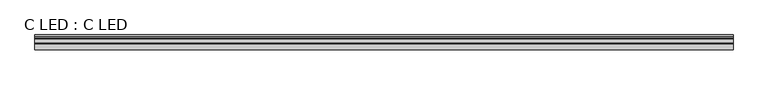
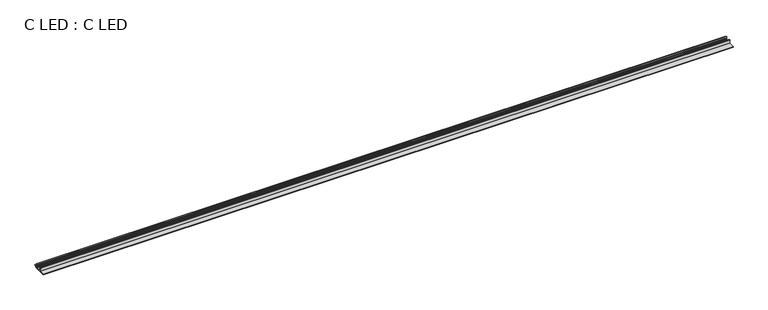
"""IFC4 building model written with IfcOpenShell, lengths in millimetres: proxy geometry, C LED : C LED."""

import ifcopenshell
import ifcopenshell.guid

model = None  # the IFC model being written
_history = None  # IfcOwnerHistory: only IFC2X3 demands one
_inside = {}  # id of a spatial element -> (the spatial element, [elements in it])
_under = {}  # id of a project, library or spatial element -> (it, [spatial elements below it])
_declared = {}  # id of a project -> (the project, [libraries it declares])
_typed = {}  # id of a type object -> (the type object, [elements of that type])
_made_of = {}  # id of a material, layer set ... -> (it, [elements and type objects made of it])


def new_model(schema):
    """Start an empty IFC model of exactly this schema.

    Asked for "IFC4X3", IfcOpenShell would pick the latest addendum, in which some entities
    have other attributes; the version numbers below select the first issue.
    IFC2X3 requires an IfcOwnerHistory on every rooted entity: one is made here for all.
    """
    global model, _history
    if schema == "IFC4X3":
        model = ifcopenshell.file(schema_version=(4, 3, 0, 0))
    else:
        model = ifcopenshell.file(schema=schema)
    _inside.clear()
    _under.clear()
    _declared.clear()
    _typed.clear()
    _made_of.clear()
    _history = None
    if model.schema == "IFC2X3":
        org = make("IfcOrganization", Name="unknown")
        user = make(
            "IfcPersonAndOrganization",
            ThePerson=make("IfcPerson", FamilyName="unknown"),
            TheOrganization=org,
        )
        app = make(
            "IfcApplication",
            ApplicationDeveloper=org,
            Version="unknown",
            ApplicationFullName="unknown",
            ApplicationIdentifier="unknown",
        )
        _history = make(
            "IfcOwnerHistory",
            OwningUser=user,
            OwningApplication=app,
            ChangeAction="ADDED",
            CreationDate=0,
        )
    return model


def make(cls, **values):
    """One entity of the class cls with the attributes given. An attribute that is None is left unset."""
    return model.create_entity(
        cls, **{name: value for name, value in values.items() if value is not None}
    )


def rooted(cls, **values):
    """An entity with a GlobalId (a new one), such as an element, a storey or a relation."""
    return make(cls, GlobalId=ifcopenshell.guid.new(), OwnerHistory=_history, **values)


def si_unit(unit_type, name, prefix=None):
    """IfcSIUnit, for example si_unit("LENGTHUNIT", "METRE", prefix="MILLI")."""
    return make("IfcSIUnit", UnitType=unit_type, Prefix=prefix, Name=name)


def assignment(units):
    """IfcUnitAssignment: the units of a project."""
    return None if units is None else make("IfcUnitAssignment", Units=units)


def point(xyz):
    """IfcCartesianPoint."""
    return None if xyz is None else make("IfcCartesianPoint", Coordinates=xyz)


def direction(xyz):
    """IfcDirection."""
    return None if xyz is None else make("IfcDirection", DirectionRatios=xyz)


def frame(location, z_axis=None, x_axis=None):
    """IfcAxis2Placement3D, a coordinate frame: its origin and axes. An axis left out is left unset."""
    return make(
        "IfcAxis2Placement3D",
        Location=point(location),
        Axis=direction(z_axis),
        RefDirection=direction(x_axis),
    )


def frame_2d(location, x_axis=None):
    """IfcAxis2Placement2D, a coordinate frame in the plane: its origin and x axis."""
    return make(
        "IfcAxis2Placement2D", Location=point(location), RefDirection=direction(x_axis)
    )


def origin():
    """The frame at (0, 0, 0) with its axes left unset."""
    return frame((0.0, 0.0, 0.0))


def place(relative_to, where):
    """IfcLocalPlacement: puts the frame where relative to a parent placement (None: the world)."""
    return make(
        "IfcLocalPlacement", PlacementRelTo=relative_to, RelativePlacement=where
    )


def context(
    kind, dimensions, precision=None, world=None, true_north=None, identifier=None
):
    """IfcGeometricRepresentationContext, for example the 3D "Model" context."""
    return make(
        "IfcGeometricRepresentationContext",
        ContextIdentifier=identifier,
        ContextType=kind,
        CoordinateSpaceDimension=dimensions,
        Precision=precision,
        WorldCoordinateSystem=world,
        TrueNorth=true_north,
    )


def project(units=None, contexts=None):
    """IfcProject with its units and contexts."""
    return rooted(
        "IfcProject",
        Name="project",
        RepresentationContexts=contexts,
        UnitsInContext=assignment(units),
    )


def spatial(cls, under=None, at=None, **own):
    """A site, building, storey or space (cls), placed at a placement, below another one or the project."""
    s = rooted(cls, ObjectPlacement=at, **own)
    if under is not None:
        _under.setdefault(under.id(), (under, []))[1].append(s)
    return s


def polyline(points):
    """IfcPolyline through the points."""
    return make("IfcPolyline", Points=[point(p) for p in points])


def circle_curve(where, radius):
    """IfcCircle in the frame where."""
    return make("IfcCircle", Position=where, Radius=radius)


def trimmed(basis, trim1, trim2, sense, master):
    """IfcTrimmedCurve: the piece of a basis curve between two trims."""
    return make(
        "IfcTrimmedCurve",
        BasisCurve=basis,
        Trim1=trim1,
        Trim2=trim2,
        SenseAgreement=sense,
        MasterRepresentation=master,
    )


def segment(curve, same_sense, transition):
    """IfcCompositeCurveSegment."""
    return make(
        "IfcCompositeCurveSegment",
        Transition=transition,
        SameSense=same_sense,
        ParentCurve=curve,
    )


def composite_curve(segments, self_intersect=None):
    """IfcCompositeCurve: segments joined end to end."""
    return make("IfcCompositeCurve", Segments=segments, SelfIntersect=self_intersect)


def outline(outer, holes=None, kind="AREA"):
    """IfcArbitraryClosedProfileDef: a profile drawn as a closed curve; with holes, ...WithVoids."""
    if holes is None:
        return make("IfcArbitraryClosedProfileDef", ProfileType=kind, OuterCurve=outer)
    return make(
        "IfcArbitraryProfileDefWithVoids",
        ProfileType=kind,
        OuterCurve=outer,
        InnerCurves=holes,
    )


def extrude(swept, where, along, depth):
    """IfcExtrudedAreaSolid: the profile swept, set in the frame where, extruded along a direction by depth."""
    return make(
        "IfcExtrudedAreaSolid",
        SweptArea=swept,
        Position=where,
        ExtrudedDirection=direction(along),
        Depth=depth,
    )


def shape(context_of_items, identifier, shape_type, items):
    """IfcShapeRepresentation: the items that make up one representation, for example the "Body"."""
    return make(
        "IfcShapeRepresentation",
        ContextOfItems=context_of_items,
        RepresentationIdentifier=identifier,
        RepresentationType=shape_type,
        Items=items,
    )


def source(mapping_origin, context_of_items, identifier, shape_type, items):
    """IfcRepresentationMap: a shape defined once, which mapped items show again and again."""
    return make(
        "IfcRepresentationMap",
        MappingOrigin=mapping_origin,
        MappedRepresentation=shape(context_of_items, identifier, shape_type, items),
    )


def transform(
    local_origin,
    x_axis=None,
    y_axis=None,
    z_axis=None,
    scale=None,
    scale2=None,
    scale3=None,
    uniform=True,
):
    """IfcCartesianTransformationOperator3D, or its non-uniform kind. x_axis, y_axis, z_axis: its Axis1, 2, 3."""
    if uniform:
        return make(
            "IfcCartesianTransformationOperator3D",
            Axis1=direction(x_axis),
            Axis2=direction(y_axis),
            LocalOrigin=point(local_origin),
            Scale=scale,
            Axis3=direction(z_axis),
        )
    return make(
        "IfcCartesianTransformationOperator3DnonUniform",
        Axis1=direction(x_axis),
        Axis2=direction(y_axis),
        LocalOrigin=point(local_origin),
        Scale=scale,
        Axis3=direction(z_axis),
        Scale2=scale2,
        Scale3=scale3,
    )


def mapped(mapping_source, mapping_target):
    """IfcMappedItem: shows the shape of a source again, moved by a transform."""
    return make(
        "IfcMappedItem", MappingSource=mapping_source, MappingTarget=mapping_target
    )


def made_of(thing, what):
    """Note that an element or type object is made of a material, layer set ...; save() writes the relation."""
    if what is not None:
        _made_of.setdefault(what.id(), (what, []))[1].append(thing)
    return thing


def element(
    cls,
    number,
    at=None,
    inside=None,
    cuts=None,
    type_object=None,
    material=None,
    context=None,
    identifier="Body",
    shape_type=None,
    held_by="IfcProductDefinitionShape",
    body=None,
    shapes=None,
    **own,
):
    """One element of the class cls, such as IfcWall. Its Tag is "e" and its number.

    at: its placement. inside: the storey or other place that contains it. cuts: it is an
    opening in that element (IfcRelVoidsElement). A single representation is given by context,
    identifier, shape_type and body (its items); several are given by shapes. held_by: the class
    of the entity that holds the representations. save() writes the other relations.
    """
    e = rooted(cls, Tag="e%d" % number, ObjectPlacement=at, **own)
    if body is not None:
        shapes = [shape(context, identifier, shape_type, body)]
    if shapes is not None:
        e.Representation = make(held_by, Representations=shapes)
    if inside is not None:
        _inside.setdefault(inside.id(), (inside, []))[1].append(e)
    if cuts is not None:
        rooted(
            "IfcRelVoidsElement", RelatingBuildingElement=cuts, RelatedOpeningElement=e
        )
    if type_object is not None:
        _typed.setdefault(type_object.id(), (type_object, []))[1].append(e)
    return made_of(e, material)


def aggregate(whole, parts):
    """IfcRelAggregates: a whole, such as a stair, and the parts it consists of."""
    return rooted("IfcRelAggregates", RelatingObject=whole, RelatedObjects=parts)


def save(model, path):
    """Write the relations noted so far, then the file.

    IfcRelAggregates (storeys below a building ...), IfcRelContainedInSpatialStructure (elements
    in a storey), IfcRelDefinesByType, IfcRelAssociatesMaterial and IfcRelDeclares: one each for
    every whole, place, type object, material and project.
    """
    for whole, parts in _under.values():
        aggregate(whole, parts)
    for where, things in _inside.values():
        rooted(
            "IfcRelContainedInSpatialStructure",
            RelatedElements=things,
            RelatingStructure=where,
        )
    for kind, things in _typed.values():
        rooted("IfcRelDefinesByType", RelatedObjects=things, RelatingType=kind)
    for what, things in _made_of.values():
        rooted("IfcRelAssociatesMaterial", RelatedObjects=things, RelatingMaterial=what)
    for by, libraries in _declared.values():
        rooted("IfcRelDeclares", RelatingContext=by, RelatedDefinitions=libraries)
    model.write(path)


def c_led_c_led_8937523a(model_context):
    return source(origin(), model_context, "Body", "SweptSolid", [
        extrude(outline(composite_curve([segment(polyline([(-16.8000006, 7.8045541), (-16.8000006, 1.1999992), (-3.2940858, 1.1999992), (-3.2940858, 1.9999992)]), True, "CONTINUOUS"), segment(trimmed(circle_curve(frame_2d((-0.6483345, 4.9999992)), 4.0), [point((-3.2940858, 1.9999992))], [point((-4.6483345, 4.9999992))], False, "CARTESIAN"), True, "CONTINUOUS"), segment(polyline([(-4.6483345, 4.9999992), (-3.3983345, 4.9999992)]), True, "CONTINUOUS"), segment(trimmed(circle_curve(frame_2d((-0.6483345, 4.9999992)), 2.75), [point((-3.3983345, 4.9999992))], [point((-2.5928782, 3.0554556))], True, "CARTESIAN"), True, "CONTINUOUS"), segment(trimmed(circle_curve(frame_2d((-0.6483345, 4.9999992)), 2.75), [point((-2.5928782, 3.0554556))], [point((0.655408, 2.5786865))], True, "CARTESIAN"), True, "CONTINUOUS"), segment(trimmed(circle_curve(frame_2d((-0.6483345, 4.9999992)), 2.75), [point((0.655408, 2.5786865))], [point((2.0734708, 5.3927787))], True, "CARTESIAN"), True, "CONTINUOUS"), segment(trimmed(circle_curve(frame_2d((-0.6483345, 4.9999992)), 2.75), [point((2.0734708, 5.3927787))], [point((0.1618837, 7.627935))], True, "CARTESIAN"), True, "CONTINUOUS"), segment(polyline([(0.1618837, 7.627935), (-2.5031066, 7.8740971)]), True, "CONTINUOUS"), segment(trimmed(circle_curve(frame_2d((-2.9000006, 8.8999992)), 1.1), [point((-2.5031066, 7.8740971))], [point((-2.9000006, 9.9999992))], False, "CARTESIAN"), True, "CONTINUOUS"), segment(polyline([(-2.9000006, 9.9999992), (-6e-07, 9.9999992), (4.9999994, 4.9999992), (-6e-07, -8e-07), (-33.0000006, -8e-07), (-33.0000006, 1.1999992), (-18.0000006, 1.1999992), (-18.0000006, 8.8999992)]), True, "CONTINUOUS"), segment(trimmed(circle_curve(frame_2d((-16.9000006, 8.8999992)), 1.1), [point((-18.0000006, 8.8999992))], [point((-16.8000006, 7.8045541))], False, "CARTESIAN"), True, "CONTINUOUS")], self_intersect=False)), frame((1.0, 0.0, 0.0), z_axis=(1.0, 0.0, 0.0), x_axis=(0.0, 1.0, 0.0)), (0.0, 0.0, 1.0), 1778.0),
    ])


if __name__ == "__main__":
    model = new_model("IFC4")
    model_context = context("Model", 3, world=origin())
    ifc_project = project(units=[si_unit("LENGTHUNIT", "METRE", prefix="MILLI")], contexts=[model_context])
    site = spatial("IfcSite", under=ifc_project)
    building = spatial("IfcBuilding", under=site)
    placement = place(None, origin())
    c_led_c_led_shape = c_led_c_led_8937523a(model_context)
    element("IfcBuildingElementProxy", 1, Name="C LED : C LED", ObjectType="C LED : C LED", at=placement, inside=building, context=model_context, shape_type="MappedRepresentation", body=[
        mapped(c_led_c_led_shape, transform((0.0, 0.0, 0.0), x_axis=(1.0, 0.0, 0.0), y_axis=(0.0, 1.0, 0.0), z_axis=(0.0, 0.0, 1.0))),
    ])
    save(model, "model.ifc")
